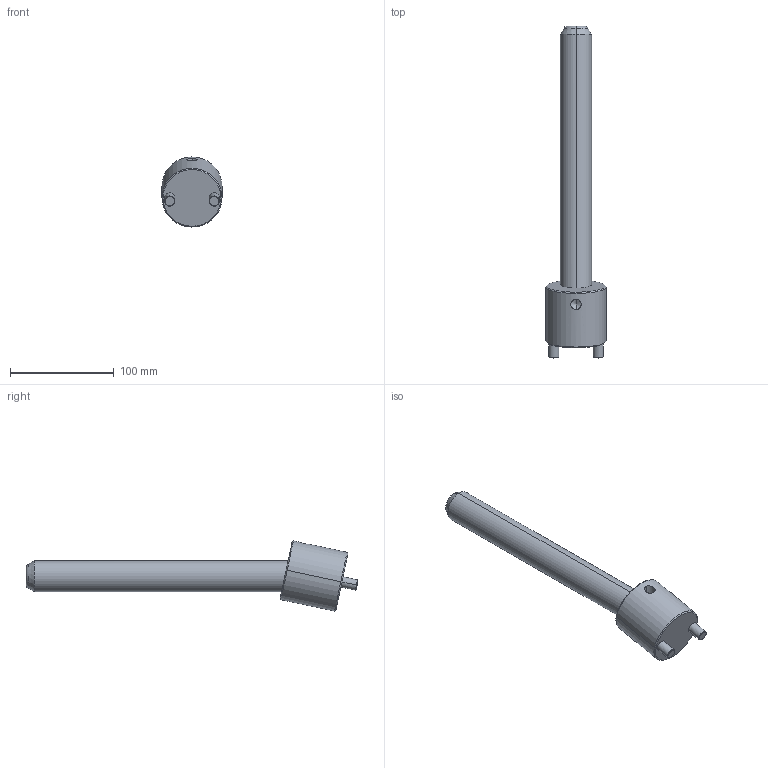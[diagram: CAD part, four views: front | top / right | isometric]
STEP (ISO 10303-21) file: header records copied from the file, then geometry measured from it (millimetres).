
FILE_DESCRIPTION(('CATIA V5 STEP Exchange'),'2;1');
FILE_NAME('C:\Users\Raffaele\Desktop\3D BOLEX\3D FILES CF BOLEX\19-INCLINED ASSEMBLY REF_CI\CI1230250.stp','2019-06-21T14:11:09+00:00',('none'),('none'),'CATIA Version 5 Release 20 GA (IN-10)','CATIA V5 STEP AP203','none');
FILE_SCHEMA(('CONFIG_CONTROL_DESIGN'));
Length unit declared in the file: millimetre
Products named in the file (1): CI1230250
Assembly tree (2 placements, depth 2):
  CI1230250
    #58
    #593
Bounding box: 58 x 320.65 x 67.75 mm (x, y, z)
Volume: 320357.7 mm3; surface area: 49670.5 mm2
Topology: 2 solids, 2 shells, 39 faces, 82 edges, 47 vertices
Faces by surface type: cone 14, cylinder 14, plane 7, torus 4
Entity records: 1542 total; most frequent: CARTESIAN_POINT 679, ORIENTED_EDGE 160, DIRECTION 147, EDGE_CURVE 80, AXIS2_PLACEMENT_3D 74, VERTEX_POINT 47, EDGE_LOOP 43, ADVANCED_FACE 39
